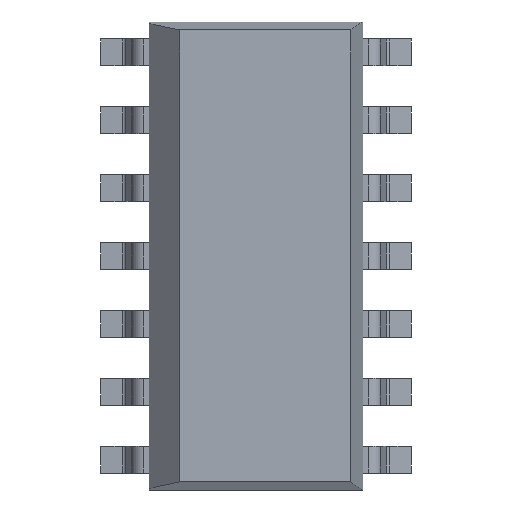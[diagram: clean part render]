
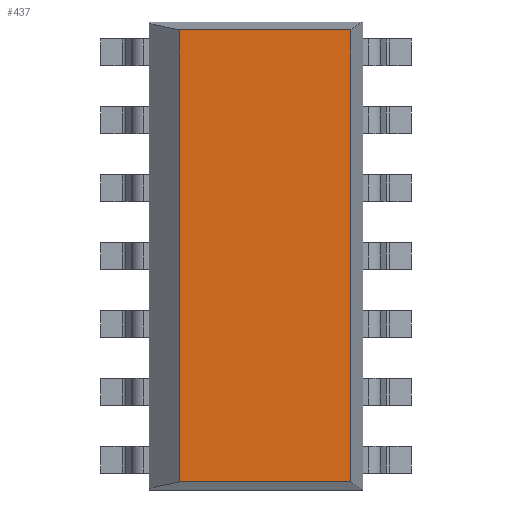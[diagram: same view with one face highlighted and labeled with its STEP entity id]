
A CAD part, top view. The second image highlights one B-rep face of the part: STEP entity #437.
In plain terms, the highlighted planar face has unit normal (0, 0, 1).
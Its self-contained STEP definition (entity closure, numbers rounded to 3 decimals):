
#344 = VERTEX_POINT('',#345);
#345 = CARTESIAN_POINT('',(1.775,4.225,1.75));
#354 = VERTEX_POINT('',#355);
#355 = CARTESIAN_POINT('',(-1.425,4.225,1.75));
#361 = EDGE_CURVE('',#344,#354,#362,.T.);
#362 = LINE('',#363,#364);
#363 = CARTESIAN_POINT('',(9.859,4.225,1.75));
#364 = VECTOR('',#365,1.);
#365 = DIRECTION('',(-1.,0.,0.));
#378 = VERTEX_POINT('',#379);
#379 = CARTESIAN_POINT('',(-1.425,-4.225,1.75));
#385 = EDGE_CURVE('',#354,#378,#386,.T.);
#386 = LINE('',#387,#388);
#387 = CARTESIAN_POINT('',(-1.425,4.375,1.75));
#388 = VECTOR('',#389,1.);
#389 = DIRECTION('',(0.,-1.,0.));
#400 = VERTEX_POINT('',#401);
#401 = CARTESIAN_POINT('',(1.775,-4.225,1.75));
#410 = EDGE_CURVE('',#400,#378,#411,.T.);
#411 = LINE('',#412,#413);
#412 = CARTESIAN_POINT('',(9.859,-4.225,1.75));
#413 = VECTOR('',#414,1.);
#414 = DIRECTION('',(-1.,0.,0.));
#426 = EDGE_CURVE('',#344,#400,#427,.T.);
#427 = LINE('',#428,#429);
#428 = CARTESIAN_POINT('',(1.775,4.375,1.75));
#429 = VECTOR('',#430,1.);
#430 = DIRECTION('',(0.,-1.,0.));
#437 = ADVANCED_FACE('',(#438),#444,.T.);
#438 = FACE_BOUND('',#439,.T.);
#439 = EDGE_LOOP('',(#440,#441,#442,#443));
#440 = ORIENTED_EDGE('',*,*,#361,.T.);
#441 = ORIENTED_EDGE('',*,*,#385,.T.);
#442 = ORIENTED_EDGE('',*,*,#410,.F.);
#443 = ORIENTED_EDGE('',*,*,#426,.F.);
#444 = PLANE('',#445);
#445 = AXIS2_PLACEMENT_3D('',#446,#447,#448);
#446 = CARTESIAN_POINT('',(-1.425,4.375,1.75));
#447 = DIRECTION('',(0.,0.,1.));
#448 = DIRECTION('',(1.,0.,0.));
